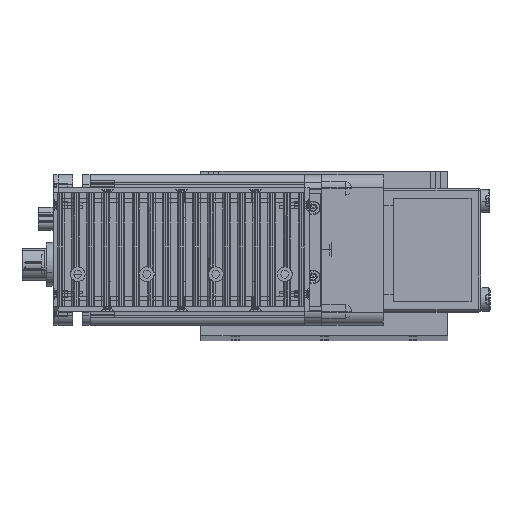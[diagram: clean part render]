
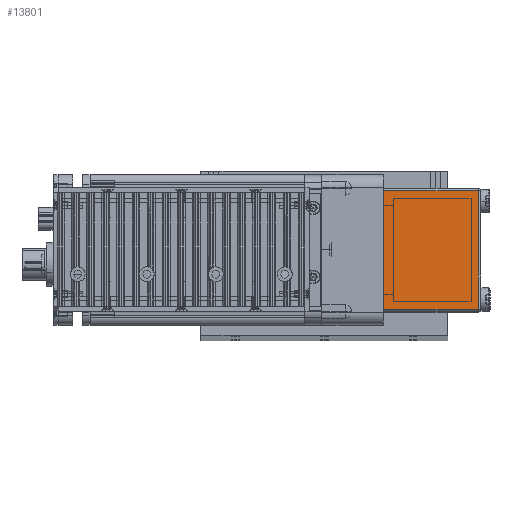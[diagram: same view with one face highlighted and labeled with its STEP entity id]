
A CAD part, top view. The second image highlights one B-rep face of the part: STEP entity #13801.
In plain terms, the highlighted planar face has unit normal (0, 0, 1) as drawn and (1, 0, 0) by its records, which use the part's own axes.
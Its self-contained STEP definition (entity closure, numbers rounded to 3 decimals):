
#13370 = VERTEX_POINT ( 'NONE', #47238 ) ;
#13563 = VERTEX_POINT ( 'NONE', #47440 ) ;
#13571 = EDGE_CURVE ( 'NONE', #13563, #13603, #47499, .T. ) ;
#13592 = VERTEX_POINT ( 'NONE', #47494 ) ;
#13603 = VERTEX_POINT ( 'NONE', #47471 ) ;
#13610 = EDGE_CURVE ( 'NONE', #13592, #13370, #47462, .T. ) ;
#13686 = EDGE_LOOP ( 'NONE', ( #13713, #13806, #13694, #13809 ) ) ;
#13694 = ORIENTED_EDGE ( 'NONE', *, *, #13610, .F. ) ;
#13708 = EDGE_CURVE ( 'NONE', #13563, #13370, #47628, .T. ) ;
#13713 = ORIENTED_EDGE ( 'NONE', *, *, #13571, .F. ) ;
#13801 = ADVANCED_FACE ( 'NONE', ( #47677 ), #47673, .F. ) ;
#13804 = EDGE_CURVE ( 'NONE', #13603, #13592, #47747, .T. ) ;
#13806 = ORIENTED_EDGE ( 'NONE', *, *, #13708, .T. ) ;
#13809 = ORIENTED_EDGE ( 'NONE', *, *, #13804, .F. ) ;
#47238 = CARTESIAN_POINT ( 'NONE',  ( 62., 24., 0. ) ) ;
#47440 = CARTESIAN_POINT ( 'NONE',  ( 62., -24., 0. ) ) ;
#47462 = LINE ( 'NONE', #47464, #47526 ) ;
#47463 = DIRECTION ( 'NONE',  ( 0., 0., -1. ) ) ;
#47464 = CARTESIAN_POINT ( 'NONE',  ( 62., 24., 39.5 ) ) ;
#47471 = CARTESIAN_POINT ( 'NONE',  ( 62., -24., 38.5 ) ) ;
#47490 = DIRECTION ( 'NONE',  ( 0., 0., 1. ) ) ;
#47491 = VECTOR ( 'NONE', #47490, 1000. ) ;
#47492 = CARTESIAN_POINT ( 'NONE',  ( 62., -24., 39.5 ) ) ;
#47494 = CARTESIAN_POINT ( 'NONE',  ( 62., 24., 38.5 ) ) ;
#47499 = LINE ( 'NONE', #47492, #47491 ) ;
#47526 = VECTOR ( 'NONE', #47463, 1000. ) ;
#47624 = DIRECTION ( 'NONE',  ( 0., 1., 0. ) ) ;
#47625 = VECTOR ( 'NONE', #47624, 1000. ) ;
#47626 = CARTESIAN_POINT ( 'NONE',  ( 62., -25., 0. ) ) ;
#47628 = LINE ( 'NONE', #47626, #47625 ) ;
#47668 = AXIS2_PLACEMENT_3D ( 'NONE', #47693, #47745, #47744 ) ;
#47673 = PLANE ( 'NONE',  #47668 ) ;
#47677 = FACE_OUTER_BOUND ( 'NONE', #13686, .T. ) ;
#47693 = CARTESIAN_POINT ( 'NONE',  ( 62., 25., 39.5 ) ) ;
#47740 = DIRECTION ( 'NONE',  ( 0., 1., 0. ) ) ;
#47741 = VECTOR ( 'NONE', #47740, 1000. ) ;
#47744 = DIRECTION ( 'NONE',  ( 0., -1., 0. ) ) ;
#47745 = DIRECTION ( 'NONE',  ( -1., 0., 0. ) ) ;
#47746 = CARTESIAN_POINT ( 'NONE',  ( 62., -25., 38.5 ) ) ;
#47747 = LINE ( 'NONE', #47746, #47741 ) ;
